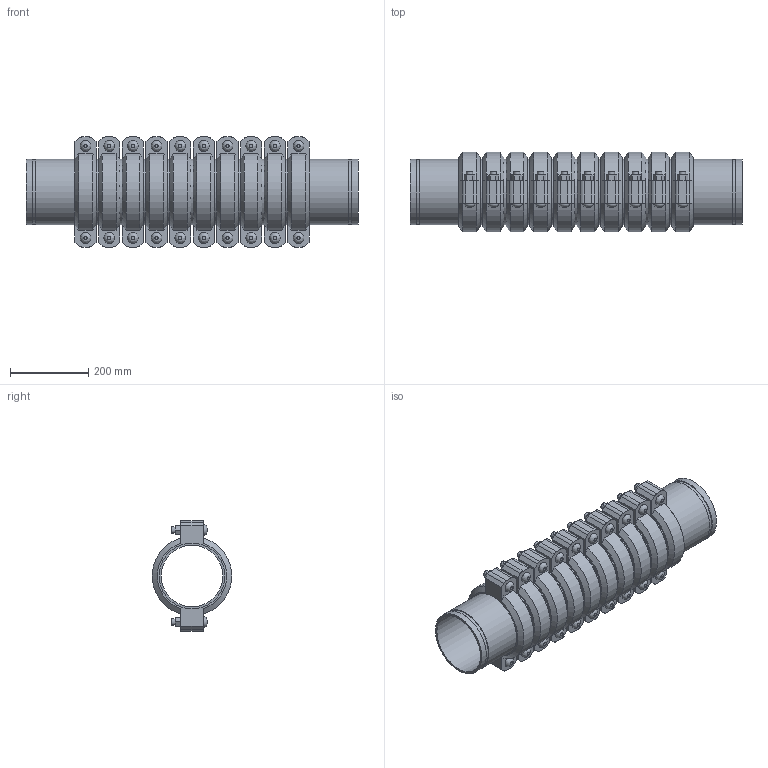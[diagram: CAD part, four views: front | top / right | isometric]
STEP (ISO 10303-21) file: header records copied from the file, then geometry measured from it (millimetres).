
FILE_DESCRIPTION(/* description */ ('VIC SS EXPANSION JOINT 10 COUPLINGS COMPRESSED STYLE 155P (OGS) (POTABLE WATER) ','CAx-IF Rec.Pracs.---Representation and Presentation of Product Manufacturing Information (PMI)---4.0---2014-10-13'),/* implementation_level */ '2;1');
FILE_NAME(/* name */ 'C:\Users\kkamble\AppData\Roaming\Autodesk\ApplicationPlugins\Victaulic.Temp\A563\Victaulic_SS_Expansion Joint_Compressed_10 Couplings_Style 155P (OGS)-Potable Water_10 Coup_Comp_6 (150).stp',/* time_stamp */ '2021-07-16T17:05:38+06:00',/* author */ ('kkamble'),/* organization */ ('Victaulic'),/* preprocessor_version */ 'ST-DEVELOPER v17.2',/* originating_system */ 'Autodesk Inventor 2019',/* authorisation */ '');
FILE_SCHEMA (('AP242_MANAGED_MODEL_BASED_3D_ENGINEERING_MIM_LF { 1 0 10303 442 1 1 4 }'));
Length unit declared in the file: inch
Products named in the file (4): 155P-06.0; Nipple-06.0; Nipple-06.0_1; 075-06.0
Assembly tree (21 placements, depth 2):
  155P-06.0
    Nipple-06.0  x2
    Nipple-06.0_1  x9
    075-06.0  x10
Bounding box: 848.11 x 202.46 x 281.18 mm (x, y, z)
Volume: 9671521.8 mm3; surface area: 2076016 mm2
Topology: 21 solids, 41 shells, 662 faces, 1600 edges, 1124 vertices
Faces by surface type: plane 406, cylinder 196, cone 40, bspline 20
Full cylindrical faces by diameter (mm): 15.875 x40, 17.424 x20, 157.15 x11, 163.957 x22, 168.275 x43
Entity records: 2769 total; most frequent: CARTESIAN_POINT 491, DIRECTION 467, ORIENTED_EDGE 374, AXIS2_PLACEMENT_3D 188, EDGE_CURVE 187, VERTEX_POINT 134, EDGE_LOOP 101, LINE 91
